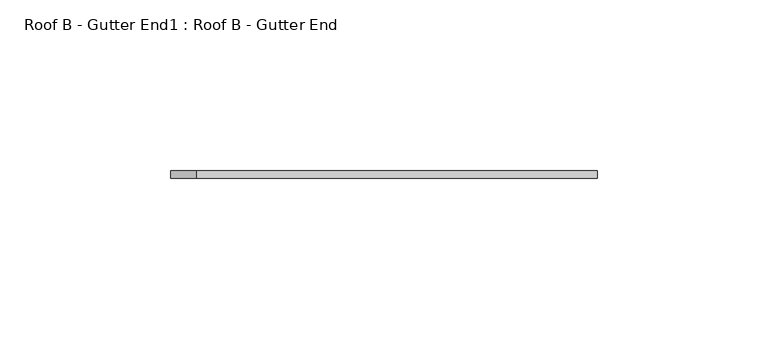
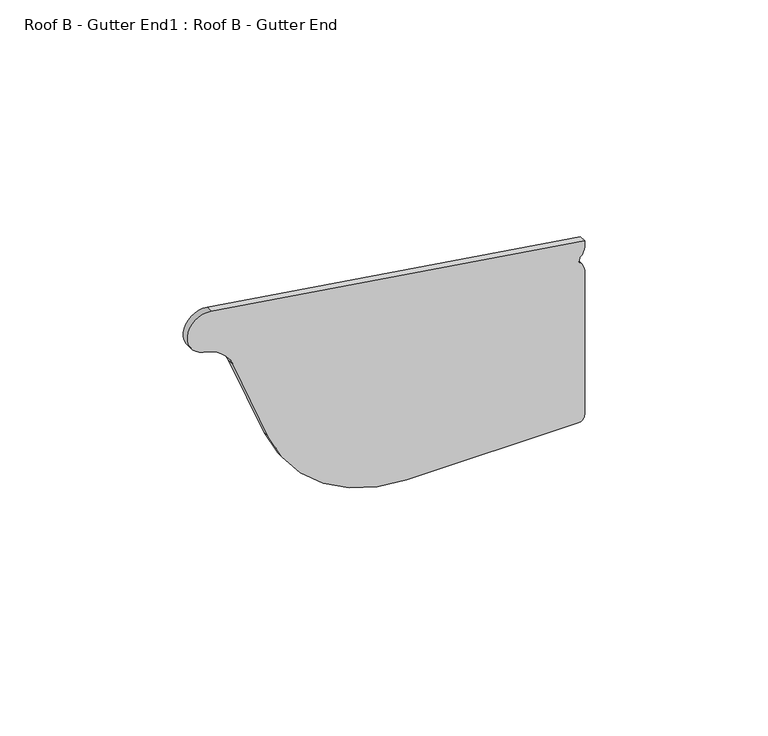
"""IFC4 building model written with IfcOpenShell, lengths in millimetres: proxy geometry, Roof B - Gutter End1 : Roof B - Gutter End."""

from ifc_helpers import new_model, si_unit, point, frame, frame_2d, origin, place, context, project, spatial, polyline, circle_curve, trimmed, segment, composite_curve, outline, extrude, source, transform, mapped, element, save


def roof_b_gutter_end1_roof_b_gutter_end_b5080205(model_context):
    return source(origin(), model_context, "Body", "SweptSolid", [
        extrude(outline(composite_curve([segment(polyline([(3180.6763391, -16383.0936548), (3180.6763391, -16329.0936548)]), True, "CONTINUOUS"), segment(trimmed(circle_curve(frame_2d((3182.6763391, -16329.0936548)), 2.0), [point((3180.6763391, -16329.0936548))], [point((3182.6763391, -16327.0936548))], False, "CARTESIAN"), True, "CONTINUOUS"), segment(polyline([(3182.6763391, -16327.0936548), (3230.6370105, -16327.0936548)]), True, "CONTINUOUS"), segment(trimmed(circle_curve(frame_2d((3230.5307477, -16331.4023173)), 4.3099726), [point((3230.6370105, -16327.0936548))], [point((3233.6002352, -16328.3767412))], False, "CARTESIAN"), True, "CONTINUOUS"), segment(trimmed(circle_curve(frame_2d((3234.6002352, -16327.391047)), 1.4041343), [point((3233.6002352, -16328.3767412))], [point((3235.6002352, -16328.3767412))], True, "CARTESIAN"), True, "CONTINUOUS"), segment(trimmed(circle_curve(frame_2d((3238.6697226, -16331.4023173)), 4.3099726), [point((3235.6002352, -16328.3767412))], [point((3238.5634599, -16327.0936548))], False, "CARTESIAN"), True, "CONTINUOUS"), segment(polyline([(3238.5634599, -16327.0936548), (3240.5885717, -16327.0936548), (3258.218254, -16444.620058)]), True, "CONTINUOUS"), segment(trimmed(circle_curve(frame_2d((3251.7817717, -16445.5855699)), 6.5084958), [point((3258.218254, -16444.620058))], [point((3245.4719989, -16447.1815915))], False, "CARTESIAN"), True, "CONTINUOUS"), segment(trimmed(circle_curve(frame_2d((3233.6974373, -16448.7734278)), 11.8816767), [point((3245.4719989, -16447.1815915))], [point((3238.0905136, -16437.7337211))], True, "CARTESIAN"), True, "CONTINUOUS"), segment(polyline([(3238.0905136, -16437.7337211), (3210.2164005, -16426.6416599)]), True, "CONTINUOUS"), segment(trimmed(circle_curve(frame_2d((3227.5456386, -16383.0936548)), 46.8692995), [point((3210.2164005, -16426.6416599))], [point((3180.6763391, -16383.0936548))], False, "CARTESIAN"), True, "CONTINUOUS")], self_intersect=False)), frame((0.0, -22058.1704124, 0.0), z_axis=(0.0, 1.0, 0.0), x_axis=(0.0, 0.0, 1.0)), (0.0, 0.0, 1.0), 2.2149942),
    ])


if __name__ == "__main__":
    model = new_model("IFC4")
    model_context = context("Model", 3, world=origin())
    ifc_project = project(units=[si_unit("LENGTHUNIT", "METRE", prefix="MILLI")], contexts=[model_context])
    site = spatial("IfcSite", under=ifc_project)
    building = spatial("IfcBuilding", under=site)
    placement = place(None, origin())
    roof_b_gutter_end1_roof_b_gutter_end_shape = roof_b_gutter_end1_roof_b_gutter_end_b5080205(model_context)
    element("IfcBuildingElementProxy", 1, Name="Roof B - Gutter End1 : Roof B - Gutter End", ObjectType="Roof B - Gutter End1 : Roof B - Gutter End", at=placement, inside=building, context=model_context, shape_type="MappedRepresentation", body=[
        mapped(roof_b_gutter_end1_roof_b_gutter_end_shape, transform((0.0, 0.0, 0.0), x_axis=(1.0, 0.0, 0.0), y_axis=(0.0, 1.0, 0.0), z_axis=(0.0, 0.0, 1.0))),
    ])
    save(model, "model.ifc")
